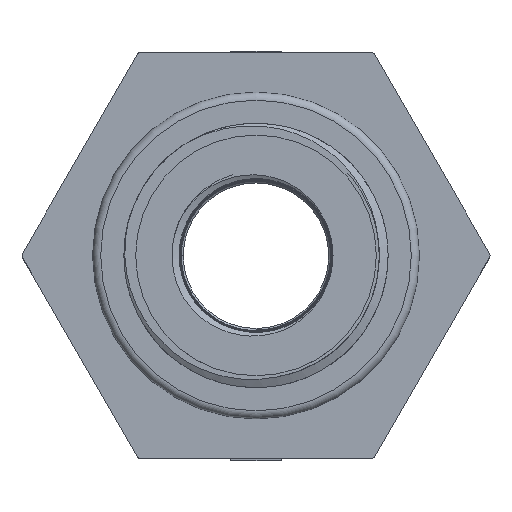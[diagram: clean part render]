
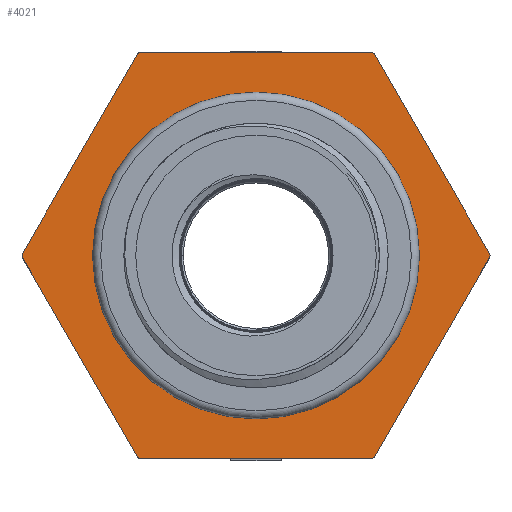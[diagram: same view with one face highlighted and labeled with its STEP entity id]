
A CAD part, top view. The second image highlights one B-rep face of the part: STEP entity #4021.
In plain terms, the highlighted planar face has unit normal (0, 0, 1).
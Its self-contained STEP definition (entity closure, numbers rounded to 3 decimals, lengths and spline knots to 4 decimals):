
#712=PLANE('',#94842);
#853=VECTOR('',#4601,1.);
#861=VECTOR('',#4625,1.);
#863=VECTOR('',#4630,1.);
#864=VECTOR('',#4633,1.);
#865=VECTOR('',#4636,1.);
#866=VECTOR('',#4639,1.);
#1018=LINE('',#91669,#853);
#1026=LINE('',#91697,#861);
#1028=LINE('',#91703,#863);
#1029=LINE('',#91707,#864);
#1030=LINE('',#91711,#865);
#1031=LINE('',#91714,#866);
#1093=CIRCLE('',#94817,2.5527);
#1101=CIRCLE('',#94830,0.0762);
#1108=CIRCLE('',#94840,0.0762);
#1109=CIRCLE('',#94843,0.0762);
#1110=CIRCLE('',#94844,0.0762);
#1111=CIRCLE('',#94845,0.0762);
#1112=CIRCLE('',#94846,0.0762);
#1513=VERTEX_POINT('',#91560);
#1525=VERTEX_POINT('',#91657);
#1526=VERTEX_POINT('',#91658);
#1530=VERTEX_POINT('',#91668);
#1540=VERTEX_POINT('',#91692);
#1541=VERTEX_POINT('',#91693);
#1542=VERTEX_POINT('',#91698);
#1543=VERTEX_POINT('',#91702);
#1544=VERTEX_POINT('',#91704);
#1545=VERTEX_POINT('',#91706);
#1546=VERTEX_POINT('',#91708);
#1547=VERTEX_POINT('',#91710);
#1548=VERTEX_POINT('',#91712);
#2237=EDGE_CURVE('',#1513,#1513,#1093,.T.);
#2249=EDGE_CURVE('',#1525,#1526,#1101,.T.);
#2255=EDGE_CURVE('',#1530,#1525,#1018,.T.);
#2266=EDGE_CURVE('',#1540,#1541,#1108,.T.);
#2269=EDGE_CURVE('',#1541,#1542,#1026,.T.);
#2271=EDGE_CURVE('',#1543,#1530,#1109,.T.);
#2272=EDGE_CURVE('',#1544,#1543,#1028,.T.);
#2273=EDGE_CURVE('',#1545,#1544,#1110,.T.);
#2274=EDGE_CURVE('',#1546,#1545,#1029,.T.);
#2275=EDGE_CURVE('',#1547,#1546,#1111,.T.);
#2276=EDGE_CURVE('',#1548,#1547,#1030,.T.);
#2277=EDGE_CURVE('',#1542,#1548,#1112,.T.);
#2278=EDGE_CURVE('',#1526,#1540,#1031,.T.);
#3285=ORIENTED_EDGE('',*,*,#2249,.F.);
#3286=ORIENTED_EDGE('',*,*,#2255,.F.);
#3287=ORIENTED_EDGE('',*,*,#2271,.F.);
#3288=ORIENTED_EDGE('',*,*,#2272,.F.);
#3289=ORIENTED_EDGE('',*,*,#2273,.F.);
#3290=ORIENTED_EDGE('',*,*,#2274,.F.);
#3291=ORIENTED_EDGE('',*,*,#2275,.F.);
#3292=ORIENTED_EDGE('',*,*,#2276,.F.);
#3293=ORIENTED_EDGE('',*,*,#2277,.F.);
#3294=ORIENTED_EDGE('',*,*,#2269,.F.);
#3295=ORIENTED_EDGE('',*,*,#2266,.F.);
#3296=ORIENTED_EDGE('',*,*,#2278,.F.);
#3297=ORIENTED_EDGE('',*,*,#2237,.T.);
#3599=EDGE_LOOP('',(#3285,#3286,#3287,#3288,#3289,#3290,#3291,#3292,#3293,
#3294,#3295,#3296));
#3600=EDGE_LOOP('',(#3297));
#3821=FACE_BOUND('',#3599,.T.);
#3822=FACE_BOUND('',#3600,.T.);
#4021=ADVANCED_FACE('',(#3821,#3822),#712,.T.);
#4569=DIRECTION('',(0.,0.,-1.));
#4570=DIRECTION('',(2.553,0.,0.));
#4592=DIRECTION('',(0.,0.,-1.));
#4593=DIRECTION('',(0.038,-0.066,0.));
#4601=DIRECTION('',(-0.5,-0.866,0.));
#4620=DIRECTION('',(0.,0.,-1.));
#4621=DIRECTION('',(-0.038,-0.066,0.));
#4625=DIRECTION('',(-0.5,0.866,0.));
#4627=DIRECTION('',(0.,0.,1.));
#4628=DIRECTION('',(0.,0.,-1.));
#4629=DIRECTION('',(0.076,0.,0.));
#4630=DIRECTION('',(0.5,-0.866,0.));
#4631=DIRECTION('',(0.,0.,-1.));
#4632=DIRECTION('',(0.038,0.066,0.));
#4633=DIRECTION('',(1.,0.,0.));
#4634=DIRECTION('',(0.,0.,-1.));
#4635=DIRECTION('',(-0.038,0.066,0.));
#4636=DIRECTION('',(0.5,0.866,0.));
#4637=DIRECTION('',(0.,0.,-1.));
#4638=DIRECTION('',(-0.076,0.,0.));
#4639=DIRECTION('',(-1.,0.,0.));
#91559=CARTESIAN_POINT('',(0.,0.,
0.7366));
#91560=CARTESIAN_POINT('',(2.5527,0.,0.7366));
#91656=CARTESIAN_POINT('',(1.7891,-3.0988,0.7366));
#91657=CARTESIAN_POINT('',(1.8551,-3.1369,0.7366));
#91658=CARTESIAN_POINT('',(1.7891,-3.175,0.7366));
#91668=CARTESIAN_POINT('',(3.6442,-0.0381,0.7366));
#91669=CARTESIAN_POINT('',(1.8331,-3.175,0.7366));
#91691=CARTESIAN_POINT('',(-1.7891,-3.0988,0.7366));
#91692=CARTESIAN_POINT('',(-1.7891,-3.175,0.7366));
#91693=CARTESIAN_POINT('',(-1.8551,-3.1369,0.7366));
#91697=CARTESIAN_POINT('',(-3.6662,0.,0.7366));
#91698=CARTESIAN_POINT('',(-3.6442,-0.0381,0.7366));
#91700=CARTESIAN_POINT('',(0.,0.,
0.7366));
#91701=CARTESIAN_POINT('',(3.5782,0.,0.7366));
#91702=CARTESIAN_POINT('',(3.6442,0.0381,0.7366));
#91703=CARTESIAN_POINT('',(3.6662,0.,0.7366));
#91704=CARTESIAN_POINT('',(1.8551,3.1369,0.7366));
#91705=CARTESIAN_POINT('',(1.7891,3.0988,0.7366));
#91706=CARTESIAN_POINT('',(1.7891,3.175,0.7366));
#91707=CARTESIAN_POINT('',(1.8331,3.175,0.7366));
#91708=CARTESIAN_POINT('',(-1.7891,3.175,0.7366));
#91709=CARTESIAN_POINT('',(-1.7891,3.0988,0.7366));
#91710=CARTESIAN_POINT('',(-1.8551,3.1369,0.7366));
#91711=CARTESIAN_POINT('',(-1.8331,3.175,0.7366));
#91712=CARTESIAN_POINT('',(-3.6442,0.0381,0.7366));
#91713=CARTESIAN_POINT('',(-3.5782,0.,0.7366));
#91714=CARTESIAN_POINT('',(-1.8331,-3.175,0.7366));
#94817=AXIS2_PLACEMENT_3D('',#91559,#4569,#4570);
#94830=AXIS2_PLACEMENT_3D('',#91656,#4592,#4593);
#94840=AXIS2_PLACEMENT_3D('',#91691,#4620,#4621);
#94842=AXIS2_PLACEMENT_3D('',#91700,#4627,$);
#94843=AXIS2_PLACEMENT_3D('',#91701,#4628,#4629);
#94844=AXIS2_PLACEMENT_3D('',#91705,#4631,#4632);
#94845=AXIS2_PLACEMENT_3D('',#91709,#4634,#4635);
#94846=AXIS2_PLACEMENT_3D('',#91713,#4637,#4638);
